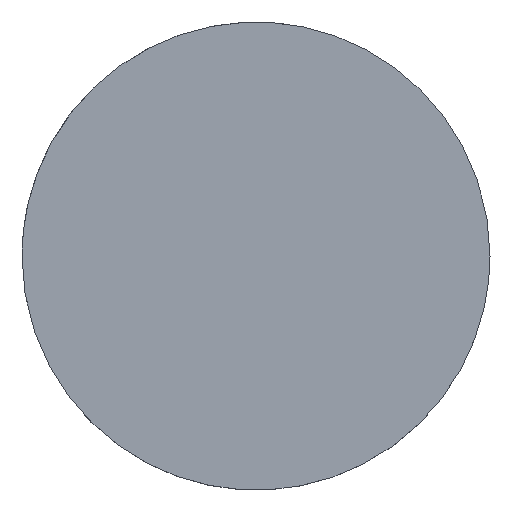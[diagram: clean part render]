
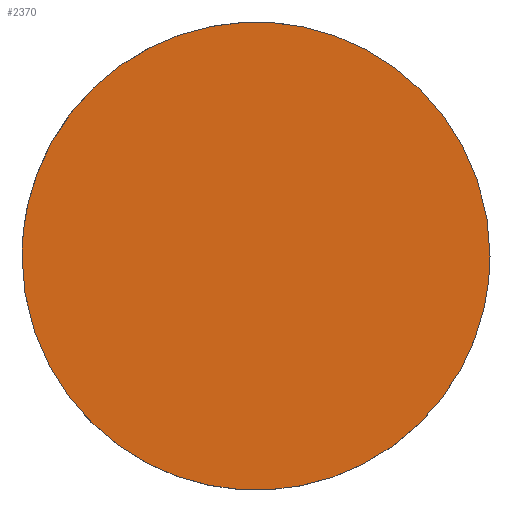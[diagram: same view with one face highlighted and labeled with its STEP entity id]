
A CAD part, top view. The second image highlights one B-rep face of the part: STEP entity #2370.
In plain terms, the highlighted planar face has unit normal (0, 0, 1).
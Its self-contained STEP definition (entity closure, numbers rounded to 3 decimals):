
#190 = CARTESIAN_POINT ('', (-25., 0., -31.277));
#200 = VERTEX_POINT ('', #190);
#260 = CARTESIAN_POINT ('', (25., 0., -31.277));
#270 = VERTEX_POINT ('', #260);
#280 = CARTESIAN_POINT ('', (25., 0., -31.277));
#290 = CARTESIAN_POINT ('', (25., 25., -31.277));
#300 = CARTESIAN_POINT ('', (0., 25., -31.277));
#310 = CARTESIAN_POINT ('', (-25., 25., -31.277));
#320 = CARTESIAN_POINT ('', (-25., 0., -31.277));
#330 = (
   BOUNDED_CURVE ()
   B_SPLINE_CURVE (2, (#280, #290, #300, #310, #320), .UNSPECIFIED., .F., .U.)
   B_SPLINE_CURVE_WITH_KNOTS ((3, 2, 3), (0., 1.571, 3.142), .UNSPECIFIED.)
   CURVE ()
   GEOMETRIC_REPRESENTATION_ITEM ()
   RATIONAL_B_SPLINE_CURVE ((1., 0.707, 1., 0.707, 1.))
   REPRESENTATION_ITEM ('')
);
#340 = EDGE_CURVE ('', #270, #200, #330, .T.);
#580 = CARTESIAN_POINT ('', (-25., 0., -31.277));
#590 = CARTESIAN_POINT ('', (-25., -25., -31.277));
#600 = CARTESIAN_POINT ('', (0., -25., -31.277));
#610 = CARTESIAN_POINT ('', (25., -25., -31.277));
#620 = CARTESIAN_POINT ('', (25., 0., -31.277));
#630 = (
   BOUNDED_CURVE ()
   B_SPLINE_CURVE (2, (#580, #590, #600, #610, #620), .UNSPECIFIED., .F., .U.)
   B_SPLINE_CURVE_WITH_KNOTS ((3, 2, 3), (3.142, 4.712, 6.283), .UNSPECIFIED.)
   CURVE ()
   GEOMETRIC_REPRESENTATION_ITEM ()
   RATIONAL_B_SPLINE_CURVE ((1., 0.707, 1., 0.707, 1.))
   REPRESENTATION_ITEM ('')
);
#640 = EDGE_CURVE ('', #200, #270, #630, .T.);
#2280 = ORIENTED_EDGE ('', *, *, #340, .T.);
#2290 = ORIENTED_EDGE ('', *, *, #640, .T.);
#2300 = EDGE_LOOP ('', (#2280, #2290));
#2310 = FACE_OUTER_BOUND ('', #2300, .T.);
#2320 = CARTESIAN_POINT ('', (0., 51.204, -31.277));
#2330 = DIRECTION ('', (0., 0., 1.));
#2340 = DIRECTION ('', (-0.707, -0.707, 0.));
#2350 = AXIS2_PLACEMENT_3D ('', #2320, #2330, #2340);
#2360 = PLANE ('', #2350);
#2370 = ADVANCED_FACE ('', (#2310), #2360, .T.);
